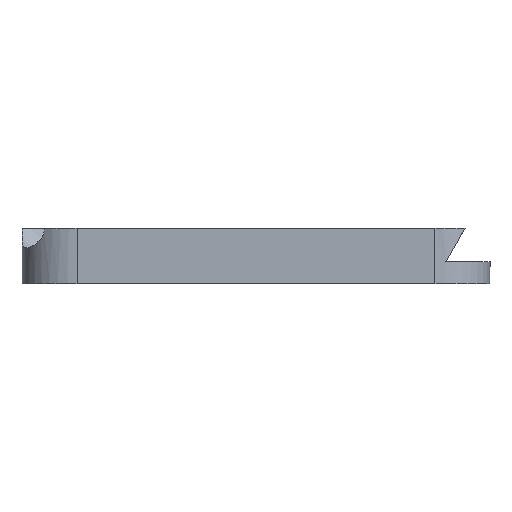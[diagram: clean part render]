
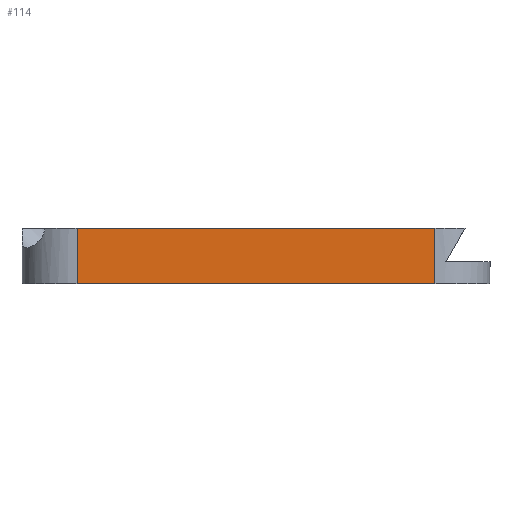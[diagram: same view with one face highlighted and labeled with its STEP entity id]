
A CAD part, left-side view. The second image highlights one B-rep face of the part: STEP entity #114.
In plain terms, the highlighted planar face has unit normal (-1, 0, 0).
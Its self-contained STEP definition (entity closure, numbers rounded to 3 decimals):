
#67 = DIRECTION ( 'NONE',  ( 0., 0., 1. ) ) ;
#114 = ADVANCED_FACE ( 'NONE', ( #628 ), #1566, .F. ) ;
#173 = ORIENTED_EDGE ( 'NONE', *, *, #228, .T. ) ;
#191 = VERTEX_POINT ( 'NONE', #201 ) ;
#201 = CARTESIAN_POINT ( 'NONE',  ( -20., 65., 10. ) ) ;
#221 = ORIENTED_EDGE ( 'NONE', *, *, #520, .T. ) ;
#228 = EDGE_CURVE ( 'NONE', #909, #1916, #813, .T. ) ;
#301 = VECTOR ( 'NONE', #1698, 1000. ) ;
#324 = VECTOR ( 'NONE', #694, 1000. ) ;
#520 = EDGE_CURVE ( 'NONE', #918, #191, #887, .T. ) ;
#522 = CARTESIAN_POINT ( 'NONE',  ( -20., 130., 10. ) ) ;
#537 = AXIS2_PLACEMENT_3D ( 'NONE', #742, #1910, #912 ) ;
#558 = CARTESIAN_POINT ( 'NONE',  ( -20., 0., 0. ) ) ;
#626 = CARTESIAN_POINT ( 'NONE',  ( -20., 130., 10. ) ) ;
#628 = FACE_OUTER_BOUND ( 'NONE', #1947, .T. ) ;
#694 = DIRECTION ( 'NONE',  ( 0., 0., -1. ) ) ;
#704 = CARTESIAN_POINT ( 'NONE',  ( -20., 0., 10. ) ) ;
#742 = CARTESIAN_POINT ( 'NONE',  ( -20., 0., 10. ) ) ;
#780 = CARTESIAN_POINT ( 'NONE',  ( -20., 65., 10. ) ) ;
#792 = VECTOR ( 'NONE', #1733, 1000. ) ;
#813 = LINE ( 'NONE', #522, #324 ) ;
#887 = LINE ( 'NONE', #780, #1717 ) ;
#909 = VERTEX_POINT ( 'NONE', #626 ) ;
#912 = DIRECTION ( 'NONE',  ( 0., 0., -1. ) ) ;
#918 = VERTEX_POINT ( 'NONE', #2030 ) ;
#1217 = LINE ( 'NONE', #558, #792 ) ;
#1322 = ORIENTED_EDGE ( 'NONE', *, *, #1574, .F. ) ;
#1481 = EDGE_CURVE ( 'NONE', #1916, #918, #1217, .T. ) ;
#1566 = PLANE ( 'NONE',  #537 ) ;
#1574 = EDGE_CURVE ( 'NONE', #909, #191, #2000, .T. ) ;
#1698 = DIRECTION ( 'NONE',  ( 0., -1., 0. ) ) ;
#1717 = VECTOR ( 'NONE', #67, 1000. ) ;
#1733 = DIRECTION ( 'NONE',  ( 0., -1., 0. ) ) ;
#1897 = ORIENTED_EDGE ( 'NONE', *, *, #1481, .T. ) ;
#1910 = DIRECTION ( 'NONE',  ( 1., 0., 0. ) ) ;
#1916 = VERTEX_POINT ( 'NONE', #1994 ) ;
#1947 = EDGE_LOOP ( 'NONE', ( #1897, #221, #1322, #173 ) ) ;
#1994 = CARTESIAN_POINT ( 'NONE',  ( -20., 130., 0. ) ) ;
#2000 = LINE ( 'NONE', #704, #301 ) ;
#2030 = CARTESIAN_POINT ( 'NONE',  ( -20., 65., 0. ) ) ;
